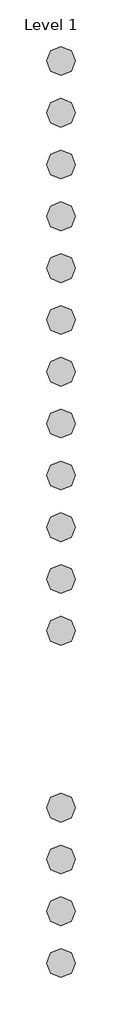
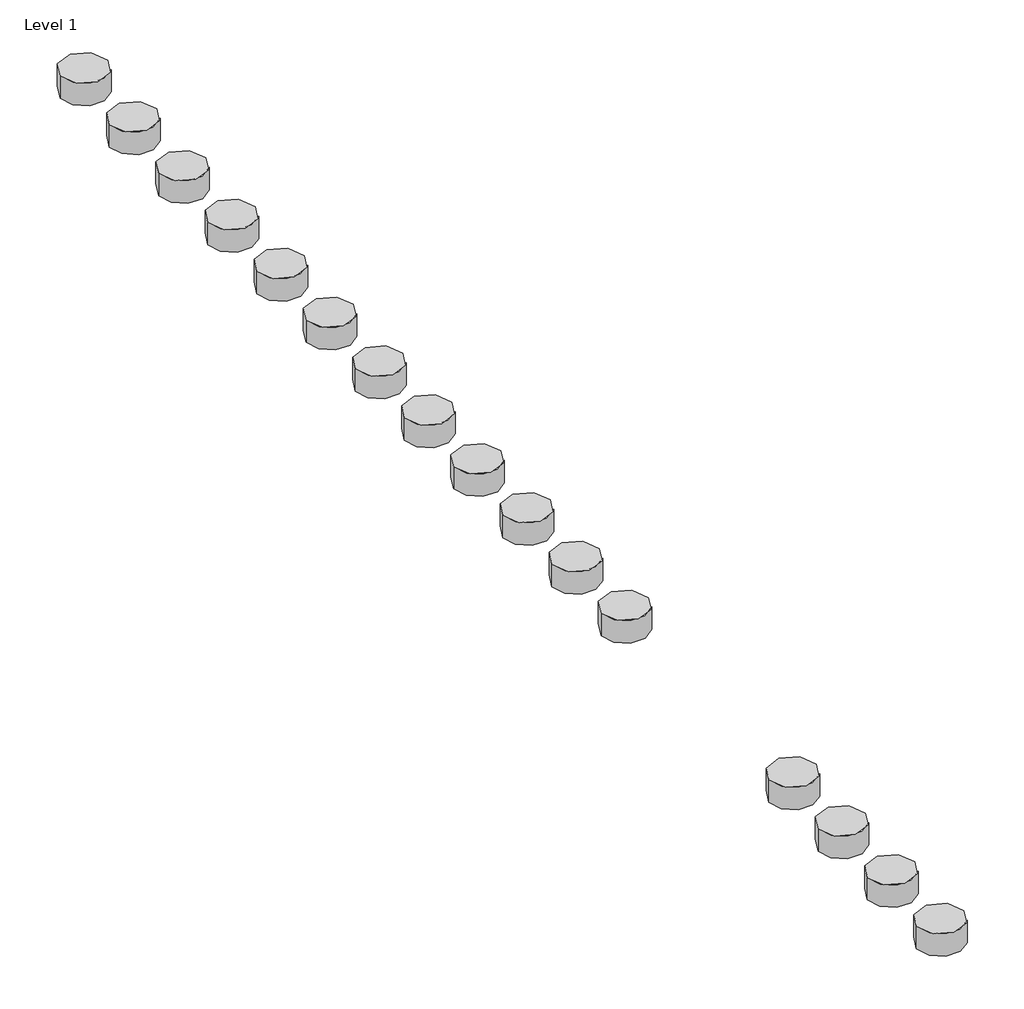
# One storey, incomplete: 16 proxies.
"""IFC4 building model written with IfcOpenShell, lengths in millimetres."""

import ifcopenshell
import ifcopenshell.guid

model = None  # the IFC model being written
_history = None  # IfcOwnerHistory: only IFC2X3 demands one
_inside = {}  # id of a spatial element -> (the spatial element, [elements in it])
_under = {}  # id of a project, library or spatial element -> (it, [spatial elements below it])
_declared = {}  # id of a project -> (the project, [libraries it declares])
_typed = {}  # id of a type object -> (the type object, [elements of that type])
_made_of = {}  # id of a material, layer set ... -> (it, [elements and type objects made of it])


def new_model(schema):
    """Start an empty IFC model of exactly this schema.

    Asked for "IFC4X3", IfcOpenShell would pick the latest addendum, in which some entities
    have other attributes; the version numbers below select the first issue.
    IFC2X3 requires an IfcOwnerHistory on every rooted entity: one is made here for all.
    """
    global model, _history
    if schema == "IFC4X3":
        model = ifcopenshell.file(schema_version=(4, 3, 0, 0))
    else:
        model = ifcopenshell.file(schema=schema)
    _inside.clear()
    _under.clear()
    _declared.clear()
    _typed.clear()
    _made_of.clear()
    _history = None
    if model.schema == "IFC2X3":
        org = make("IfcOrganization", Name="unknown")
        user = make(
            "IfcPersonAndOrganization",
            ThePerson=make("IfcPerson", FamilyName="unknown"),
            TheOrganization=org,
        )
        app = make(
            "IfcApplication",
            ApplicationDeveloper=org,
            Version="unknown",
            ApplicationFullName="unknown",
            ApplicationIdentifier="unknown",
        )
        _history = make(
            "IfcOwnerHistory",
            OwningUser=user,
            OwningApplication=app,
            ChangeAction="ADDED",
            CreationDate=0,
        )
    return model


def make(cls, **values):
    """One entity of the class cls with the attributes given. An attribute that is None is left unset."""
    return model.create_entity(
        cls, **{name: value for name, value in values.items() if value is not None}
    )


def rooted(cls, **values):
    """An entity with a GlobalId (a new one), such as an element, a storey or a relation."""
    return make(cls, GlobalId=ifcopenshell.guid.new(), OwnerHistory=_history, **values)


def si_unit(unit_type, name, prefix=None):
    """IfcSIUnit, for example si_unit("LENGTHUNIT", "METRE", prefix="MILLI")."""
    return make("IfcSIUnit", UnitType=unit_type, Prefix=prefix, Name=name)


def assignment(units):
    """IfcUnitAssignment: the units of a project."""
    return None if units is None else make("IfcUnitAssignment", Units=units)


def point(xyz):
    """IfcCartesianPoint."""
    return None if xyz is None else make("IfcCartesianPoint", Coordinates=xyz)


def direction(xyz):
    """IfcDirection."""
    return None if xyz is None else make("IfcDirection", DirectionRatios=xyz)


def frame(location, z_axis=None, x_axis=None):
    """IfcAxis2Placement3D, a coordinate frame: its origin and axes. An axis left out is left unset."""
    return make(
        "IfcAxis2Placement3D",
        Location=point(location),
        Axis=direction(z_axis),
        RefDirection=direction(x_axis),
    )


def frame_2d(location, x_axis=None):
    """IfcAxis2Placement2D, a coordinate frame in the plane: its origin and x axis."""
    return make(
        "IfcAxis2Placement2D", Location=point(location), RefDirection=direction(x_axis)
    )


def origin():
    """The frame at (0, 0, 0) with its axes left unset."""
    return frame((0.0, 0.0, 0.0))


def origin_with_axes():
    """The frame at (0, 0, 0) with the z axis (0, 0, 1) and the x axis (1, 0, 0) written out."""
    return frame((0.0, 0.0, 0.0), z_axis=(0.0, 0.0, 1.0), x_axis=(1.0, 0.0, 0.0))


def origin_2d():
    """The frame at (0, 0) in the plane with its x axis left unset."""
    return frame_2d((0.0, 0.0))


def place(relative_to, where):
    """IfcLocalPlacement: puts the frame where relative to a parent placement (None: the world)."""
    return make(
        "IfcLocalPlacement", PlacementRelTo=relative_to, RelativePlacement=where
    )


def context(
    kind, dimensions, precision=None, world=None, true_north=None, identifier=None
):
    """IfcGeometricRepresentationContext, for example the 3D "Model" context."""
    return make(
        "IfcGeometricRepresentationContext",
        ContextIdentifier=identifier,
        ContextType=kind,
        CoordinateSpaceDimension=dimensions,
        Precision=precision,
        WorldCoordinateSystem=world,
        TrueNorth=true_north,
    )


def project(units=None, contexts=None):
    """IfcProject with its units and contexts."""
    return rooted(
        "IfcProject",
        Name="project",
        RepresentationContexts=contexts,
        UnitsInContext=assignment(units),
    )


def spatial(cls, under=None, at=None, **own):
    """A site, building, storey or space (cls), placed at a placement, below another one or the project."""
    s = rooted(cls, ObjectPlacement=at, **own)
    if under is not None:
        _under.setdefault(under.id(), (under, []))[1].append(s)
    return s


def circle_curve(where, radius):
    """IfcCircle in the frame where."""
    return make("IfcCircle", Position=where, Radius=radius)


def trimmed(basis, trim1, trim2, sense, master):
    """IfcTrimmedCurve: the piece of a basis curve between two trims."""
    return make(
        "IfcTrimmedCurve",
        BasisCurve=basis,
        Trim1=trim1,
        Trim2=trim2,
        SenseAgreement=sense,
        MasterRepresentation=master,
    )


def segment(curve, same_sense, transition):
    """IfcCompositeCurveSegment."""
    return make(
        "IfcCompositeCurveSegment",
        Transition=transition,
        SameSense=same_sense,
        ParentCurve=curve,
    )


def composite_curve(segments, self_intersect=None):
    """IfcCompositeCurve: segments joined end to end."""
    return make("IfcCompositeCurve", Segments=segments, SelfIntersect=self_intersect)


def outline(outer, holes=None, kind="AREA"):
    """IfcArbitraryClosedProfileDef: a profile drawn as a closed curve; with holes, ...WithVoids."""
    if holes is None:
        return make("IfcArbitraryClosedProfileDef", ProfileType=kind, OuterCurve=outer)
    return make(
        "IfcArbitraryProfileDefWithVoids",
        ProfileType=kind,
        OuterCurve=outer,
        InnerCurves=holes,
    )


def extrude(swept, where, along, depth):
    """IfcExtrudedAreaSolid: the profile swept, set in the frame where, extruded along a direction by depth."""
    return make(
        "IfcExtrudedAreaSolid",
        SweptArea=swept,
        Position=where,
        ExtrudedDirection=direction(along),
        Depth=depth,
    )


def shape(context_of_items, identifier, shape_type, items):
    """IfcShapeRepresentation: the items that make up one representation, for example the "Body"."""
    return make(
        "IfcShapeRepresentation",
        ContextOfItems=context_of_items,
        RepresentationIdentifier=identifier,
        RepresentationType=shape_type,
        Items=items,
    )


def source(mapping_origin, context_of_items, identifier, shape_type, items):
    """IfcRepresentationMap: a shape defined once, which mapped items show again and again."""
    return make(
        "IfcRepresentationMap",
        MappingOrigin=mapping_origin,
        MappedRepresentation=shape(context_of_items, identifier, shape_type, items),
    )


def transform(
    local_origin,
    x_axis=None,
    y_axis=None,
    z_axis=None,
    scale=None,
    scale2=None,
    scale3=None,
    uniform=True,
):
    """IfcCartesianTransformationOperator3D, or its non-uniform kind. x_axis, y_axis, z_axis: its Axis1, 2, 3."""
    if uniform:
        return make(
            "IfcCartesianTransformationOperator3D",
            Axis1=direction(x_axis),
            Axis2=direction(y_axis),
            LocalOrigin=point(local_origin),
            Scale=scale,
            Axis3=direction(z_axis),
        )
    return make(
        "IfcCartesianTransformationOperator3DnonUniform",
        Axis1=direction(x_axis),
        Axis2=direction(y_axis),
        LocalOrigin=point(local_origin),
        Scale=scale,
        Axis3=direction(z_axis),
        Scale2=scale2,
        Scale3=scale3,
    )


def mapped(mapping_source, mapping_target):
    """IfcMappedItem: shows the shape of a source again, moved by a transform."""
    return make(
        "IfcMappedItem", MappingSource=mapping_source, MappingTarget=mapping_target
    )


def made_of(thing, what):
    """Note that an element or type object is made of a material, layer set ...; save() writes the relation."""
    if what is not None:
        _made_of.setdefault(what.id(), (what, []))[1].append(thing)
    return thing


def element(
    cls,
    number,
    at=None,
    inside=None,
    cuts=None,
    type_object=None,
    material=None,
    context=None,
    identifier="Body",
    shape_type=None,
    held_by="IfcProductDefinitionShape",
    body=None,
    shapes=None,
    **own,
):
    """One element of the class cls, such as IfcWall. Its Tag is "e" and its number.

    at: its placement. inside: the storey or other place that contains it. cuts: it is an
    opening in that element (IfcRelVoidsElement). A single representation is given by context,
    identifier, shape_type and body (its items); several are given by shapes. held_by: the class
    of the entity that holds the representations. save() writes the other relations.
    """
    e = rooted(cls, Tag="e%d" % number, ObjectPlacement=at, **own)
    if body is not None:
        shapes = [shape(context, identifier, shape_type, body)]
    if shapes is not None:
        e.Representation = make(held_by, Representations=shapes)
    if inside is not None:
        _inside.setdefault(inside.id(), (inside, []))[1].append(e)
    if cuts is not None:
        rooted(
            "IfcRelVoidsElement", RelatingBuildingElement=cuts, RelatedOpeningElement=e
        )
    if type_object is not None:
        _typed.setdefault(type_object.id(), (type_object, []))[1].append(e)
    return made_of(e, material)


def aggregate(whole, parts):
    """IfcRelAggregates: a whole, such as a stair, and the parts it consists of."""
    return rooted("IfcRelAggregates", RelatingObject=whole, RelatedObjects=parts)


def save(model, path):
    """Write the relations noted so far, then the file.

    IfcRelAggregates (storeys below a building ...), IfcRelContainedInSpatialStructure (elements
    in a storey), IfcRelDefinesByType, IfcRelAssociatesMaterial and IfcRelDeclares: one each for
    every whole, place, type object, material and project.
    """
    for whole, parts in _under.values():
        aggregate(whole, parts)
    for where, things in _inside.values():
        rooted(
            "IfcRelContainedInSpatialStructure",
            RelatedElements=things,
            RelatingStructure=where,
        )
    for kind, things in _typed.values():
        rooted("IfcRelDefinesByType", RelatedObjects=things, RelatingType=kind)
    for what, things in _made_of.values():
        rooted("IfcRelAssociatesMaterial", RelatedObjects=things, RelatingMaterial=what)
    for by, libraries in _declared.values():
        rooted("IfcRelDeclares", RelatingContext=by, RelatedDefinitions=libraries)
    model.write(path)


def materialmodel_materialmodel_02e69005(model_context):
    return source(origin(), model_context, "Body", "SweptSolid", [
        extrude(outline(composite_curve([segment(trimmed(circle_curve(origin_2d(), 50.0), [point((-50.0, 0.0))], [point((50.0, 0.0))], False, "CARTESIAN"), True, "CONTINUOUS"), segment(trimmed(circle_curve(origin_2d(), 50.0), [point((50.0, 0.0))], [point((-50.0, 0.0))], False, "CARTESIAN"), True, "CONTINUOUS")], self_intersect=False)), origin_with_axes(), (0.0, 0.0, 1.0), 50.0),
    ])


model = new_model("IFC4")

# Units and contexts
model_context = context("Model", 3, world=origin())
ifc_project = project(units=[si_unit("LENGTHUNIT", "METRE", prefix="MILLI")], contexts=[model_context])

# Site, building, storey
site = spatial("IfcSite", under=ifc_project)
building = spatial("IfcBuilding", under=site)
storey = spatial("IfcBuildingStorey", under=building, Name="Level 1", Elevation=0.0)

# Proxies
placement = place(None, origin())
materialmodel_materialmodel_shape = materialmodel_materialmodel_02e69005(model_context)
element("IfcBuildingElementProxy", 1, Name="MaterialModel : MaterialModel", ObjectType="MaterialModel : MaterialModel", at=placement, inside=storey, context=model_context, shape_type="MappedRepresentation", body=[
    mapped(materialmodel_materialmodel_shape, transform((-5639.8812659, 4174.882683, 0.0), x_axis=(1.0, 0.0, 0.0), y_axis=(0.0, 1.0, 0.0), z_axis=(0.0, 0.0, 1.0))),
])
element("IfcBuildingElementProxy", 2, Name="MaterialModel : MaterialModel", ObjectType="MaterialModel : MaterialModel", at=placement, inside=storey, context=model_context, shape_type="MappedRepresentation", body=[
    mapped(materialmodel_materialmodel_shape, transform((-5639.8812659, 3994.882683, 0.0), x_axis=(1.0, 0.0, 0.0), y_axis=(0.0, 1.0, 0.0), z_axis=(0.0, 0.0, 1.0))),
])
element("IfcBuildingElementProxy", 3, Name="MaterialModel : MaterialModel", ObjectType="MaterialModel : MaterialModel", at=placement, inside=storey, context=model_context, shape_type="MappedRepresentation", body=[
    mapped(materialmodel_materialmodel_shape, transform((-5639.8812659, 3814.882683, 0.0), x_axis=(1.0, 0.0, 0.0), y_axis=(0.0, 1.0, 0.0), z_axis=(0.0, 0.0, 1.0))),
])
element("IfcBuildingElementProxy", 4, Name="MaterialModel : MaterialModel", ObjectType="MaterialModel : MaterialModel", at=placement, inside=storey, context=model_context, shape_type="MappedRepresentation", body=[
    mapped(materialmodel_materialmodel_shape, transform((-5639.8812659, 3634.882683, 0.0), x_axis=(1.0, 0.0, 0.0), y_axis=(0.0, 1.0, 0.0), z_axis=(0.0, 0.0, 1.0))),
])
element("IfcBuildingElementProxy", 5, Name="MaterialModel : MaterialModel", ObjectType="MaterialModel : MaterialModel", at=placement, inside=storey, context=model_context, shape_type="MappedRepresentation", body=[
    mapped(materialmodel_materialmodel_shape, transform((-5639.8812659, 3454.882683, 0.0), x_axis=(1.0, 0.0, 0.0), y_axis=(0.0, 1.0, 0.0), z_axis=(0.0, 0.0, 1.0))),
])
element("IfcBuildingElementProxy", 6, Name="MaterialModel : MaterialModel", ObjectType="MaterialModel : MaterialModel", at=placement, inside=storey, context=model_context, shape_type="MappedRepresentation", body=[
    mapped(materialmodel_materialmodel_shape, transform((-5639.8812659, 3274.882683, 0.0), x_axis=(1.0, 0.0, 0.0), y_axis=(0.0, 1.0, 0.0), z_axis=(0.0, 0.0, 1.0))),
])
element("IfcBuildingElementProxy", 7, Name="MaterialModel : MaterialModel", ObjectType="MaterialModel : MaterialModel", at=placement, inside=storey, context=model_context, shape_type="MappedRepresentation", body=[
    mapped(materialmodel_materialmodel_shape, transform((-5639.8812659, 3094.882683, 0.0), x_axis=(1.0, 0.0, 0.0), y_axis=(0.0, 1.0, 0.0), z_axis=(0.0, 0.0, 1.0))),
])
element("IfcBuildingElementProxy", 8, Name="MaterialModel : MaterialModel", ObjectType="MaterialModel : MaterialModel", at=placement, inside=storey, context=model_context, shape_type="MappedRepresentation", body=[
    mapped(materialmodel_materialmodel_shape, transform((-5639.8812659, 2914.882683, 0.0), x_axis=(1.0, 0.0, 0.0), y_axis=(0.0, 1.0, 0.0), z_axis=(0.0, 0.0, 1.0))),
])
element("IfcBuildingElementProxy", 9, Name="MaterialModel : MaterialModel", ObjectType="MaterialModel : MaterialModel", at=placement, inside=storey, context=model_context, shape_type="MappedRepresentation", body=[
    mapped(materialmodel_materialmodel_shape, transform((-5639.8812659, 2734.882683, 0.0), x_axis=(1.0, 0.0, 0.0), y_axis=(0.0, 1.0, 0.0), z_axis=(0.0, 0.0, 1.0))),
])
element("IfcBuildingElementProxy", 10, Name="MaterialModel : MaterialModel", ObjectType="MaterialModel : MaterialModel", at=placement, inside=storey, context=model_context, shape_type="MappedRepresentation", body=[
    mapped(materialmodel_materialmodel_shape, transform((-5639.8812659, 2554.882683, 0.0), x_axis=(1.0, 0.0, 0.0), y_axis=(0.0, 1.0, 0.0), z_axis=(0.0, 0.0, 1.0))),
])
element("IfcBuildingElementProxy", 11, Name="MaterialModel : MaterialModel", ObjectType="MaterialModel : MaterialModel", at=placement, inside=storey, context=model_context, shape_type="MappedRepresentation", body=[
    mapped(materialmodel_materialmodel_shape, transform((-5639.8812659, 2374.882683, 0.0), x_axis=(1.0, 0.0, 0.0), y_axis=(0.0, 1.0, 0.0), z_axis=(0.0, 0.0, 1.0))),
])
element("IfcBuildingElementProxy", 12, Name="MaterialModel : MaterialModel", ObjectType="MaterialModel : MaterialModel", at=placement, inside=storey, context=model_context, shape_type="MappedRepresentation", body=[
    mapped(materialmodel_materialmodel_shape, transform((-5639.8812659, 2194.882683, 0.0), x_axis=(1.0, 0.0, 0.0), y_axis=(0.0, 1.0, 0.0), z_axis=(0.0, 0.0, 1.0))),
])
element("IfcBuildingElementProxy", 13, Name="MaterialModel : MaterialModel", ObjectType="MaterialModel : MaterialModel", at=placement, inside=storey, context=model_context, shape_type="MappedRepresentation", body=[
    mapped(materialmodel_materialmodel_shape, transform((-5639.8812659, 1580.6283578, 0.0), x_axis=(1.0, 0.0, 0.0), y_axis=(0.0, 1.0, 0.0), z_axis=(0.0, 0.0, 1.0))),
])
element("IfcBuildingElementProxy", 14, Name="MaterialModel : MaterialModel", ObjectType="MaterialModel : MaterialModel", at=placement, inside=storey, context=model_context, shape_type="MappedRepresentation", body=[
    mapped(materialmodel_materialmodel_shape, transform((-5639.8812659, 1400.6283578, 0.0), x_axis=(1.0, 0.0, 0.0), y_axis=(0.0, 1.0, 0.0), z_axis=(0.0, 0.0, 1.0))),
])
element("IfcBuildingElementProxy", 15, Name="MaterialModel : MaterialModel", ObjectType="MaterialModel : MaterialModel", at=placement, inside=storey, context=model_context, shape_type="MappedRepresentation", body=[
    mapped(materialmodel_materialmodel_shape, transform((-5639.8812659, 1220.6283578, 0.0), x_axis=(1.0, 0.0, 0.0), y_axis=(0.0, 1.0, 0.0), z_axis=(0.0, 0.0, 1.0))),
])
element("IfcBuildingElementProxy", 16, Name="MaterialModel : MaterialModel", ObjectType="MaterialModel : MaterialModel", at=placement, inside=storey, context=model_context, shape_type="MappedRepresentation", body=[
    mapped(materialmodel_materialmodel_shape, transform((-5639.8812659, 1040.6283578, 0.0), x_axis=(1.0, 0.0, 0.0), y_axis=(0.0, 1.0, 0.0), z_axis=(0.0, 0.0, 1.0))),
])

save(model, "model.ifc")
